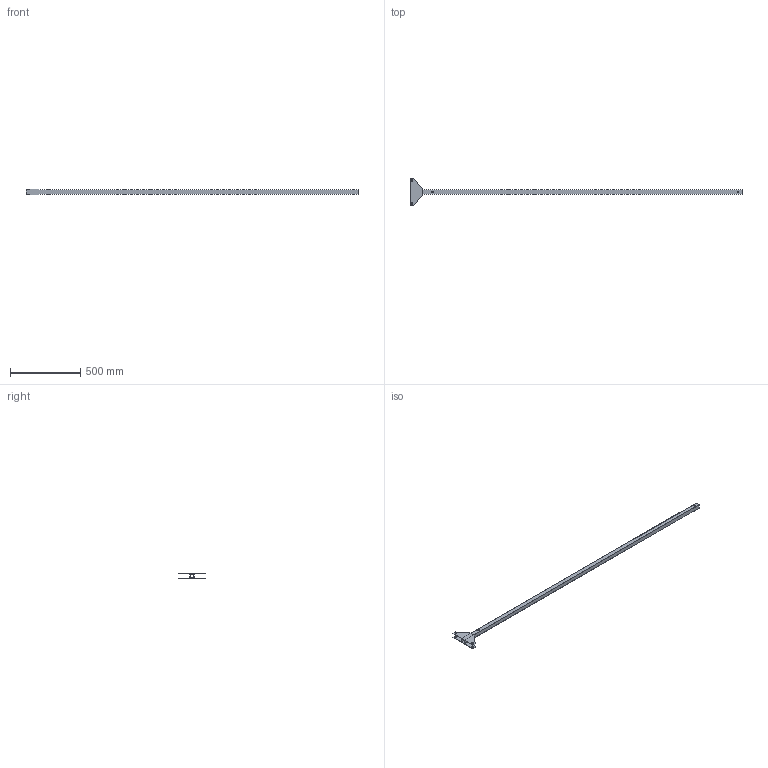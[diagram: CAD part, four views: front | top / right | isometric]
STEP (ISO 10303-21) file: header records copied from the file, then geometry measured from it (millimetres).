
FILE_DESCRIPTION(/* description */ (''),/* implementation_level */ '2;1');
FILE_NAME(/* name */ '2020TOMO-PAV-Barra1_v4.stp',/* time_stamp */ '2022-05-16T13:53:47+02:00',/* author */ (''),/* organization */ (''),/* preprocessor_version */ 'ST-DEVELOPER v18.102',/* originating_system */ 'SIEMENS PLM Software NX 2000',/* authorisation */ '');
FILE_SCHEMA (('AUTOMOTIVE_DESIGN { 1 0 10303 214 3 1 1 1 }'));
Length unit declared in the file: millimetre
Products named in the file (1): turc3144724Fyyfv
Bounding box: 2370 x 198.31 x 36 mm (x, y, z)
Volume: 481655.3 mm3; surface area: 594833.6 mm2
Topology: 3 solids, 3 shells, 34 faces, 86 edges, 58 vertices
Faces by surface type: plane 26, cylinder 8
Full cylindrical faces by diameter (mm): 12 x8
Entity records: 1042 total; most frequent: CARTESIAN_POINT 167, DIRECTION 162, ORIENTED_EDGE 152, EDGE_CURVE 76, EDGE_LOOP 60, LINE 60, VECTOR 60, VERTEX_POINT 56
